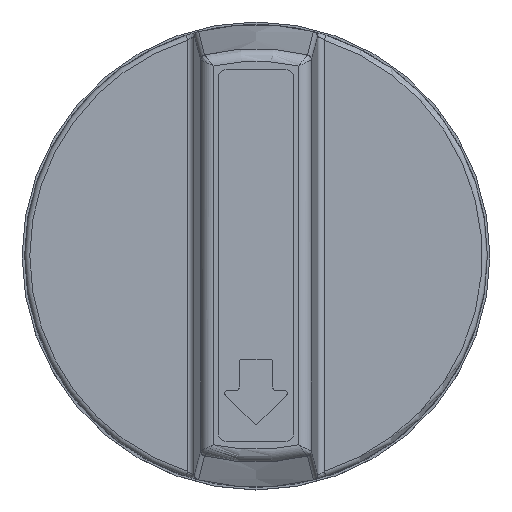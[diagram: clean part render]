
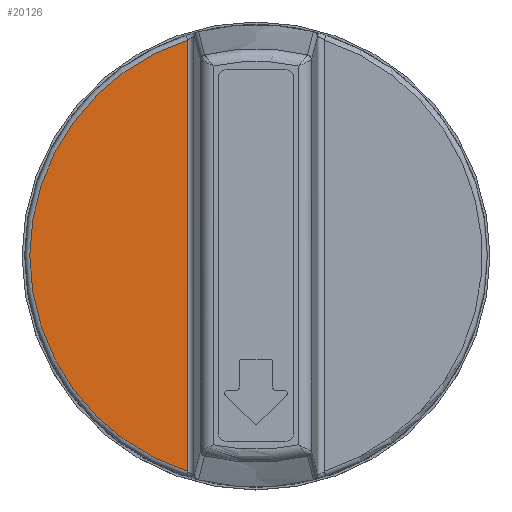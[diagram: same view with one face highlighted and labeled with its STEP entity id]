
A CAD part, top view. The second image highlights one B-rep face of the part: STEP entity #20126.
In plain terms, the highlighted planar face has unit normal (0, 0, 1).
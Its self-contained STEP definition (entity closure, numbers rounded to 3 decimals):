
#15330=DIRECTION('',(-1.,0.,0.));
#15331=VECTOR('',#15330,16.585);
#15332=CARTESIAN_POINT('',(8.293,2.631,5.65));
#15333=LINE('',#15332,#15331);
#15376=CARTESIAN_POINT('',(0.,0.,5.65));
#15377=DIRECTION('',(0.,0.,1.));
#15378=DIRECTION('',(0.953,0.302,0.));
#15379=AXIS2_PLACEMENT_3D('',#15376,#15377,#15378);
#15381=CARTESIAN_POINT('',(0.,0.,5.65));
#15382=DIRECTION('',(0.,0.,1.));
#15383=DIRECTION('',(0.,1.,0.));
#15384=AXIS2_PLACEMENT_3D('',#15381,#15382,#15383);
#18067=CARTESIAN_POINT('',(-8.293,2.631,5.65));
#18069=VERTEX_POINT('',#18067);
#18072=CARTESIAN_POINT('',(8.293,2.631,5.65));
#18074=VERTEX_POINT('',#18072);
#18075=CARTESIAN_POINT('',(0.,8.7,5.65));
#18076=VERTEX_POINT('',#18075);
#20114=CARTESIAN_POINT('',(-30.637,2.39,5.65));
#20115=DIRECTION('',(0.,0.,-1.));
#20116=DIRECTION('',(0.,1.,0.));
#20117=AXIS2_PLACEMENT_3D('',#20114,#20115,#20116);
#20118=PLANE('',#20117);
#20120=ORIENTED_EDGE('',*,*,#20119,.F.);
#20121=ORIENTED_EDGE('',*,*,#20104,.T.);
#20123=ORIENTED_EDGE('',*,*,#20122,.F.);
#20124=EDGE_LOOP('',(#20120,#20121,#20123));
#20125=FACE_OUTER_BOUND('',#20124,.F.);
#20126=ADVANCED_FACE('',(#20125),#20118,.F.);
#15380=CIRCLE('',#15379,8.7);
#15385=CIRCLE('',#15384,8.7);
#20104=EDGE_CURVE('',#18074,#18069,#15333,.T.);
#20119=EDGE_CURVE('',#18074,#18076,#15380,.T.);
#20122=EDGE_CURVE('',#18076,#18069,#15385,.T.);
